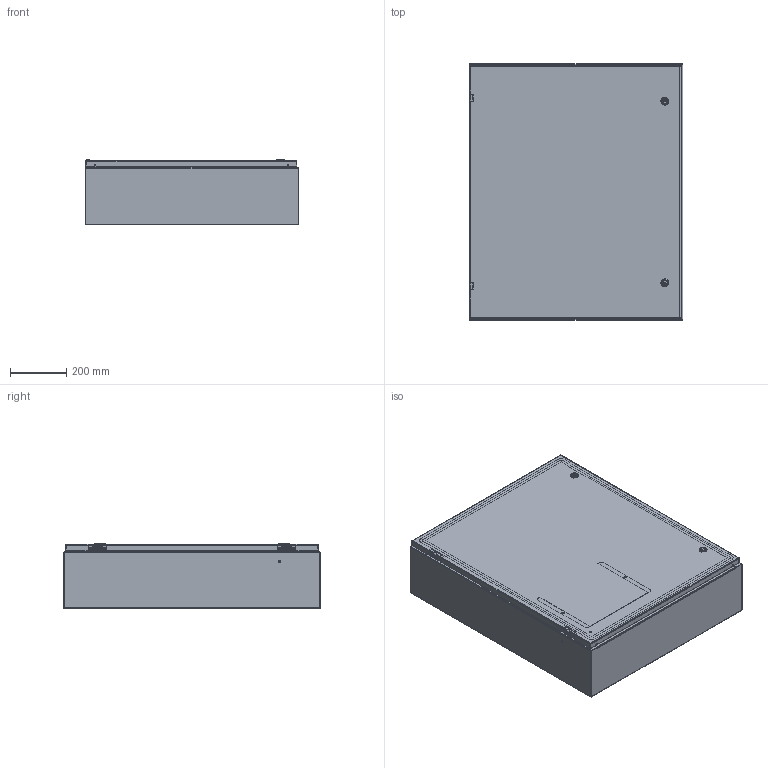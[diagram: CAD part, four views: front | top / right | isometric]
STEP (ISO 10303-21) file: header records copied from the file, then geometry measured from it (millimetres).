
FILE_DESCRIPTION((''),'2;1');
FILE_NAME('MODEL-305_ASM','2024-04-23T09:18:57',('JoelB'),('SAGINAW CONTROL & ENGINEERING'),'CREO PARAMETRIC BY PTC INC, 2021284','CREO PARAMETRIC BY PTC INC, 2021284','');
FILE_SCHEMA(('AUTOMOTIVE_DESIGN { 1 0 10303 214 1 1 1 1 }'));
Length unit declared in the file: inch
Products named in the file (28): MODEL-305-BDY; MODEL-305-TP; MODEL-305-BTM; MODEL-305-DR; 100837; 100882; 111267; 100794_SHAFT; 100794_INSERT; 100794_CAM; 100794_NUT; 100794_SCREW; 100794_ASM; MODEL-305-DOOR-GASKET; 126391; 126391_ASM; 126393; 102483; 101226; 101376; 102140; MODEL-305-DOOR-ASSY_ASM; 101653; 122192; SUBPANEL; 100904; SUBPANEL-SUBASSEMBLY_ASM; MODEL-305_ASM
Assembly tree (52 placements, depth 4):
  MODEL-305_ASM
    MODEL-305-BDY
    MODEL-305-TP
    MODEL-305-BTM
    MODEL-305-DOOR-ASSY_ASM
      MODEL-305-DR
      100837  x3
      100882  x2
      111267
      100794_ASM  x2
        100794_SHAFT
        100794_INSERT
        100794_CAM
        100794_NUT
        100794_SCREW
      MODEL-305-DOOR-GASKET
      126391_ASM  x2
        126391
      126393  x2
      102483  x6
      101226  x2
      101376  x2
      102140  x2
    100837
    101653  x6
    122192
    SUBPANEL-SUBASSEMBLY_ASM
      SUBPANEL
      100904  x6
Bounding box: 762 x 914.4 x 234.33 mm (x, y, z)
Volume: 6962535.9 mm3; surface area: 6189814.2 mm2
Topology: 53 solids, 53 shells, 3185 faces, 8030 edges, 5024 vertices
Faces by surface type: plane 1402, cylinder 877, bspline 472, torus 250, cone 112, sphere 72
Entity records: 85404 total; most frequent: CARTESIAN_POINT 24667, ORIENTED_EDGE 8778, DIRECTION 8274, PRESENTATION_STYLE_ASSIGNMENT 4586, EDGE_CURVE 4389, STYLED_ITEM 4311, CURVE_STYLE 4227, AXIS2_PLACEMENT_3D 3018
